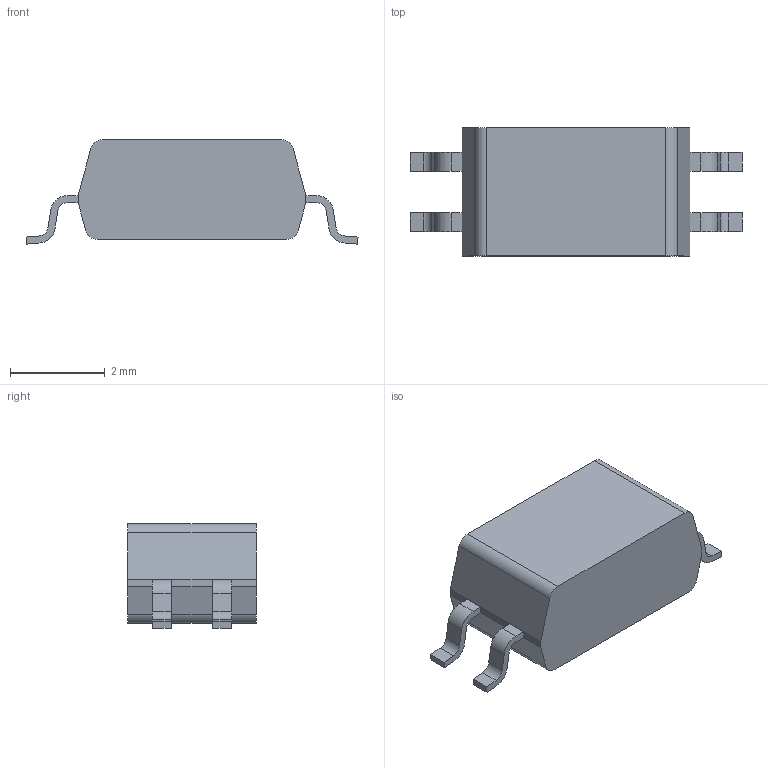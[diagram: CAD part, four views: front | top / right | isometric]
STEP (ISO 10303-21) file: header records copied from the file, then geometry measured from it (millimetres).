
FILE_DESCRIPTION((''),'2;1');
FILE_NAME('DFH0004A_ASM','2021-10-07T10:02:48',('a0412086'),(''),'CREO PARAMETRIC BY PTC INC, 2018500','CREO PARAMETRIC BY PTC INC, 2018500','');
FILE_SCHEMA(('CONFIG_CONTROL_DESIGN','SHAPE_APPEARANCE_LAYERS_GROUPS'));
Length unit declared in the file: millimetre
Products named in the file (3): DFH0004A_MOLD; DFH0004A_PIN; DFH0004A_ASM
Assembly tree (5 placements, depth 2):
  DFH0004A_ASM
    DFH0004A_MOLD
    DFH0004A_PIN  x4
Bounding box: 7 x 2.7 x 2.2 mm (x, y, z)
Volume: 26.1 mm3; surface area: 61 mm2
Topology: 5 solids, 5 shells, 70 faces, 180 edges, 120 vertices
Faces by surface type: plane 50, cylinder 20
Entity records: 1226 total; most frequent: DIRECTION 160, CARTESIAN_POINT 156, ORIENTED_EDGE 144, PRESENTATION_STYLE_ASSIGNMENT 74, STYLED_ITEM 74, CURVE_STYLE 72, EDGE_CURVE 72, VECTOR 56
